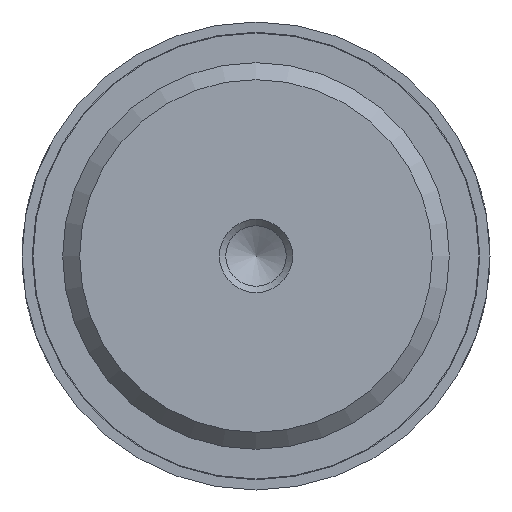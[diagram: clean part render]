
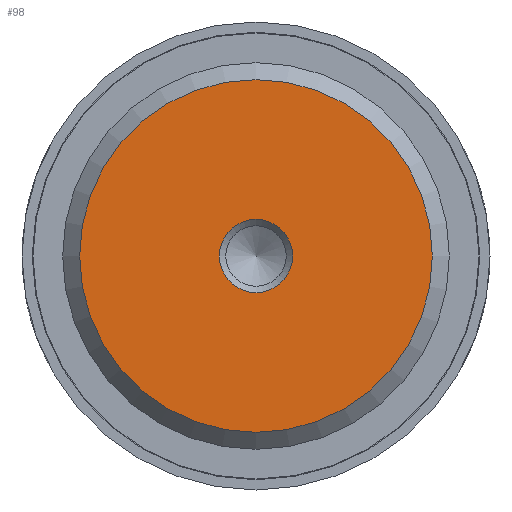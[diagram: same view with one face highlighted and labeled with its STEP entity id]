
A CAD part, front view. The second image highlights one B-rep face of the part: STEP entity #98.
In plain terms, the highlighted planar face has unit normal (0, -1, 0).
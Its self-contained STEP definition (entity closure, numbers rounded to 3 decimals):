
#98 = ADVANCED_FACE( '', ( #166, #167 ), #168, .F. );
#166 = FACE_BOUND( '', #245, .T. );
#167 = FACE_OUTER_BOUND( '', #246, .T. );
#168 = PLANE( '', #247 );
#245 = EDGE_LOOP( '', ( #408 ) );
#246 = EDGE_LOOP( '', ( #409 ) );
#247 = AXIS2_PLACEMENT_3D( '', #410, #411, #412 );
#408 = ORIENTED_EDGE( '', *, *, #474, .F. );
#409 = ORIENTED_EDGE( '', *, *, #478, .T. );
#410 = CARTESIAN_POINT( '', ( 12.059, 0., 0. ) );
#411 = DIRECTION( '', ( 0., 1., 0. ) );
#412 = DIRECTION( '', ( 0., 0., 1. ) );
#474 = EDGE_CURVE( '', #545, #545, #546, .T. );
#478 = EDGE_CURVE( '', #551, #551, #552, .T. );
#545 = VERTEX_POINT( '', #773 );
#546 = CIRCLE( '', #774, 2.5 );
#551 = VERTEX_POINT( '', #779 );
#552 = CIRCLE( '', #780, 12.059 );
#773 = CARTESIAN_POINT( '', ( 2.5, 0., 0. ) );
#774 = AXIS2_PLACEMENT_3D( '', #854, #855, #856 );
#779 = CARTESIAN_POINT( '', ( 0., 0., -12.059 ) );
#780 = AXIS2_PLACEMENT_3D( '', #863, #864, #865 );
#854 = CARTESIAN_POINT( '', ( 0., 0., 0. ) );
#855 = DIRECTION( '', ( 0., -1., 0. ) );
#856 = DIRECTION( '', ( 1., 0., 0. ) );
#863 = CARTESIAN_POINT( '', ( 0., 0., 0. ) );
#864 = DIRECTION( '', ( 0., -1., 0. ) );
#865 = DIRECTION( '', ( 0., 0., -1. ) );
